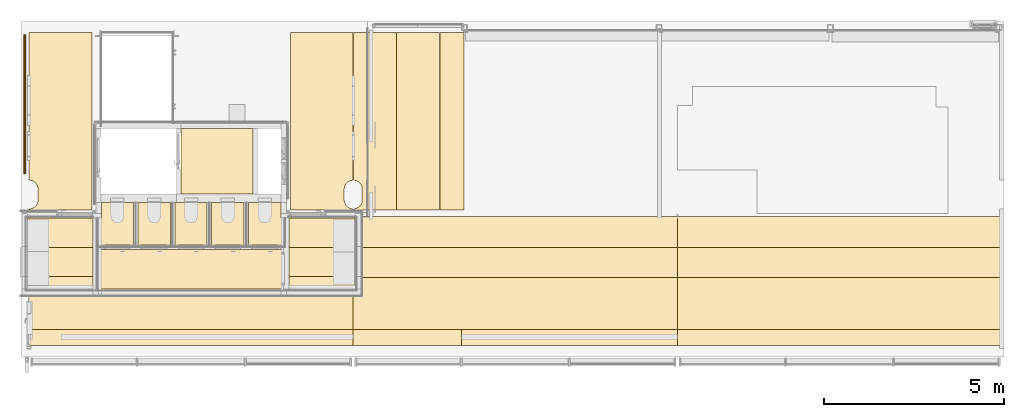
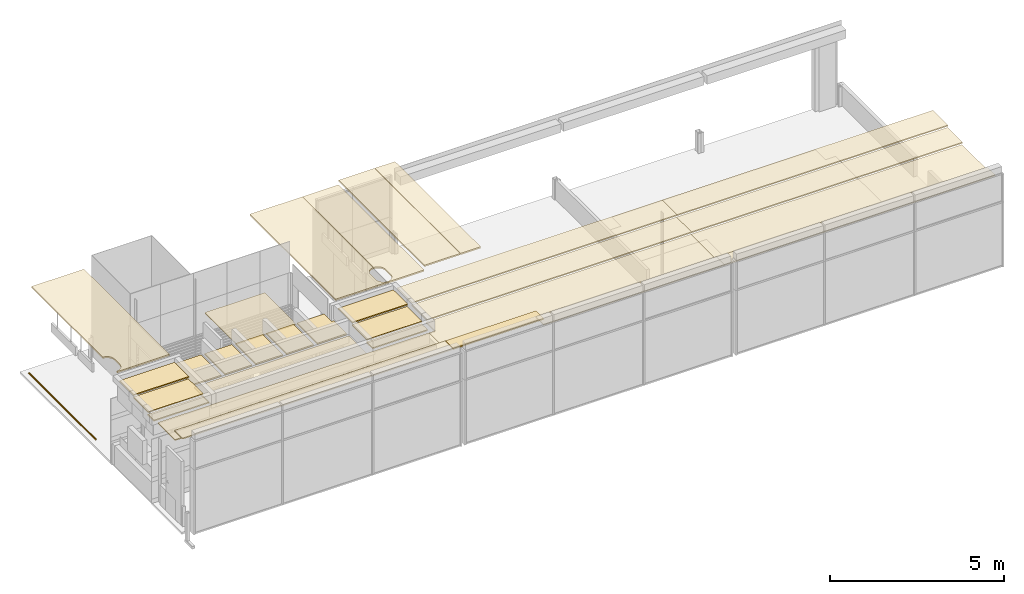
# One storey, part 22 of 26: 29 coverings, 1 railing.
"""IFC2X3 building model written with IfcOpenShell, lengths in millimetres."""

from ifc_helpers import new_model, entity, si_unit, converted_unit, derived_unit, direction, frame, frame_2d, origin_with_axes, origin_2d_with_axis, place, context, subcontext, project, spatial, polyline, circle_curve, parameter, trimmed, segment, composite_curve, rectangle, circle, outline, extrude, material, layer, layer_set, layer_usage, type_object, element, save


model = new_model("IFC2X3")

# Units and contexts
model_context = context("Model", 3, precision=0.01, world=frame((0.0, 4.29681676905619e-09, 0.0)), true_north=direction((4.01073788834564e-13, 1.0)))
plan_context = context("Plan", 3, precision=0.01, world=frame((0.0, 4.29681676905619e-09, 0.0)), true_north=direction((4.01073788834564e-13, 1.0)))
body_context = subcontext(model_context, "Body", "Model", "MODEL_VIEW")
ifc_project = project(units=[converted_unit("PLANEANGLEUNIT", "DEGREE", entity("IfcPositiveLengthMeasure", 0.0174532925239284), si_unit("PLANEANGLEUNIT", "RADIAN"), dimensions=[0, 0, 0, 0, 0, 0, 0]), si_unit("AREAUNIT", "SQUARE_METRE"), si_unit("LENGTHUNIT", "METRE", prefix="MILLI"), si_unit("MASSUNIT", "GRAM", prefix="KILO"), si_unit("POWERUNIT", "WATT"), si_unit("PRESSUREUNIT", "PASCAL", prefix="KILO"), si_unit("FORCEUNIT", "NEWTON", prefix="KILO"), si_unit("ELECTRICVOLTAGEUNIT", "VOLT"), si_unit("ELECTRICCURRENTUNIT", "AMPERE"), si_unit("THERMODYNAMICTEMPERATUREUNIT", "DEGREE_CELSIUS"), si_unit("TIMEUNIT", "SECOND"), si_unit("VOLUMEUNIT", "CUBIC_METRE"), derived_unit("LINEARVELOCITYUNIT", [(si_unit("LENGTHUNIT", "METRE"), 1), (si_unit("TIMEUNIT", "SECOND"), -1)]), derived_unit("VOLUMETRICFLOWRATEUNIT", [(si_unit("VOLUMEUNIT", "CUBIC_METRE"), 1), (si_unit("TIMEUNIT", "SECOND"), -1)]), derived_unit("THERMALTRANSMITTANCEUNIT", [(si_unit("POWERUNIT", "WATT"), 1), (si_unit("THERMODYNAMICTEMPERATUREUNIT", "KELVIN"), -1), (si_unit("AREAUNIT", "SQUARE_METRE"), -1)]), derived_unit("SOUNDPRESSUREUNIT", [(si_unit("PRESSUREUNIT", "PASCAL"), 1)])], contexts=[model_context, plan_context])

# Site, building, storey
site_placement = place(None, origin_with_axes())
site = spatial("IfcSite", under=ifc_project, at=site_placement, Name="ENGM", CompositionType="ELEMENT")
building_placement = place(site_placement, origin_with_axes())
building = spatial("IfcBuilding", under=site, at=building_placement, Name="TG", CompositionType="ELEMENT")
storey_placement = place(building_placement, frame((0.0, 0.0, 210200.0), z_axis=(0.0, 0.0, 1.0), x_axis=(1.0, 0.0, 0.0)))
storey = spatial("IfcBuildingStorey", under=building, at=storey_placement, Name="Nivå F - 0,7 m", CompositionType="ELEMENT", Elevation=210200.0)

# Coverings
ifc_material_1 = material(Name="_NSW Himlingsplate 600mm")
ifc_layer_1 = layer(ifc_material_1, 40.0)
ifc_layer_set_1 = layer_set([ifc_layer_1], Name="Compound Ceiling:A255 - eksisterende himling perfo. metall kassetter 600mm pir-nivåF")
ifc_layer_usage_1 = layer_usage(ifc_layer_set_1, "AXIS3", "NEGATIVE", 40.0)
covering_type_1 = type_object("IfcCoveringType", Name="Compound Ceiling:A255 - eksisterende himling perfo. metall kassetter 600mm pir-nivåF", PredefinedType="CEILING")
covering_1_placement = place(storey_placement, origin_with_axes())
element("IfcCovering", 1, at=covering_1_placement, inside=storey, type_object=covering_type_1, material=ifc_layer_usage_1, Name="Compound Ceiling:A255 - eksisterende himling perfo. metall kassetter 600mm pir-nivåF", ObjectType="Compound Ceiling:A255 - eksisterende himling perfo. metall kassetter 600mm pir-nivåF", PredefinedType="CEILING", context=body_context, shape_type="SweptSolid", body=[
    extrude(outline(polyline([(-5933.6666666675, -668.799999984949), (2867.33333333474, -668.799999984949), (2867.3333333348, -162.400000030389), (3066.33333333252, -162.400000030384), (3066.33333333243, 831.200000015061), (-5933.66666666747, 831.200000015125), (-5933.6666666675, -668.799999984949)])), frame((334066.333333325, 459761.200000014, 2700.0), z_axis=(0.0, 0.0, 1.0), x_axis=(-1.0, 0.0, 0.0)), (0.0, 0.0, 1.0), 39.9999999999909),
])
ifc_layer_usage_2 = layer_usage(ifc_layer_set_1, "AXIS3", "NEGATIVE", 40.0)
covering_2_placement = place(storey_placement, origin_with_axes())
element("IfcCovering", 2, at=covering_2_placement, inside=storey, type_object=covering_type_1, material=ifc_layer_usage_2, Name="Compound Ceiling:A255 - eksisterende himling perfo. metall kassetter 600mm pir-nivåF", ObjectType="Compound Ceiling:A255 - eksisterende himling perfo. metall kassetter 600mm pir-nivåF", PredefinedType="CEILING", context=body_context, shape_type="SweptSolid", body=[
    extrude(rectangle(XDim=8800.99999999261, YDim=860.000000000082, at=frame_2d((0.0, -3.46744855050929e-11), x_axis=(1.0, 0.0))), frame((335599.499999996, 460829.999999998, 2800.0), z_axis=(0.0, 0.0, 1.0), x_axis=(-1.0, 0.0, 0.0)), (0.0, 0.0, 1.0), 39.9999999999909),
])
ifc_layer_usage_3 = layer_usage(ifc_layer_set_1, "AXIS3", "NEGATIVE", 40.0)
covering_3_placement = place(storey_placement, origin_with_axes())
element("IfcCovering", 3, at=covering_3_placement, inside=storey, type_object=covering_type_1, material=ifc_layer_usage_3, Name="Compound Ceiling:A255 - eksisterende himling perfo. metall kassetter 600mm pir-nivåF", ObjectType="Compound Ceiling:A255 - eksisterende himling perfo. metall kassetter 600mm pir-nivåF", PredefinedType="CEILING", context=body_context, shape_type="SweptSolid", body=[
    extrude(rectangle(XDim=8800.99999999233, YDim=860.000000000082, at=frame_2d((0.0, -3.46744855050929e-11), x_axis=(1.0, 0.0))), frame((335599.499999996, 461659.999999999, 2900.0), z_axis=(0.0, 0.0, 1.0), x_axis=(-1.0, 0.0, 0.0)), (0.0, 0.0, 1.0), 39.9999999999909),
])
ifc_layer_usage_4 = layer_usage(ifc_layer_set_1, "AXIS3", "NEGATIVE", 40.0)
covering_4_placement = place(storey_placement, origin_with_axes())
element("IfcCovering", 4, at=covering_4_placement, inside=storey, type_object=covering_type_1, material=ifc_layer_usage_4, Name="Compound Ceiling:A255 - eksisterende himling perfo. metall kassetter 600mm pir-nivåF", ObjectType="Compound Ceiling:A255 - eksisterende himling perfo. metall kassetter 600mm pir-nivåF", PredefinedType="CEILING", context=body_context, shape_type="SweptSolid", body=[
    extrude(rectangle(XDim=2999.99999998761, YDim=450.000000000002, at=origin_2d_with_axis()), frame((332499.999999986, 458734.999999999, 3005.0), z_axis=(0.0, 0.0, 1.0), x_axis=(-1.0, 0.0, 0.0)), (0.0, 0.0, 1.0), 39.9999999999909),
])
ifc_layer_usage_5 = layer_usage(ifc_layer_set_1, "AXIS3", "NEGATIVE", 40.0)
covering_5_placement = place(storey_placement, origin_with_axes())
element("IfcCovering", 5, at=covering_5_placement, inside=storey, type_object=covering_type_1, material=ifc_layer_usage_5, Name="Compound Ceiling:A255 - eksisterende himling perfo. metall kassetter 600mm pir-nivåF", ObjectType="Compound Ceiling:A255 - eksisterende himling perfo. metall kassetter 600mm pir-nivåF", PredefinedType="CEILING", context=body_context, shape_type="SweptSolid", body=[
    extrude(rectangle(XDim=1826.49999999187, YDim=355.00000008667, at=origin_2d_with_axis()), frame((322868.250000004, 460252.499999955, 2700.0), z_axis=(0.0, 0.0, 1.0), x_axis=(-1.0, 0.0, 0.0)), (0.0, 0.0, 1.0), 39.9999999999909),
])
ifc_layer_usage_6 = layer_usage(ifc_layer_set_1, "AXIS3", "NEGATIVE", 40.0)
covering_6_placement = place(storey_placement, origin_with_axes())
element("IfcCovering", 6, at=covering_6_placement, inside=storey, type_object=covering_type_1, material=ifc_layer_usage_6, Name="Compound Ceiling:A255 - eksisterende himling perfo. metall kassetter 600mm pir-nivåF", ObjectType="Compound Ceiling:A255 - eksisterende himling perfo. metall kassetter 600mm pir-nivåF", PredefinedType="CEILING", context=body_context, shape_type="SweptSolid", body=[
    extrude(rectangle(XDim=1826.49999999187, YDim=860.000000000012, at=frame_2d((-3.46176420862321e-11, -3.46744855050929e-11), x_axis=(1.0, 0.0))), frame((322868.250000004, 460829.999999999, 2800.0), z_axis=(0.0, 0.0, 1.0), x_axis=(-1.0, 0.0, 0.0)), (0.0, 0.0, 1.0), 39.9999999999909),
])
ifc_layer_usage_7 = layer_usage(ifc_layer_set_1, "AXIS3", "NEGATIVE", 40.0)
covering_7_placement = place(storey_placement, origin_with_axes())
element("IfcCovering", 7, at=covering_7_placement, inside=storey, type_object=covering_type_1, material=ifc_layer_usage_7, Name="Compound Ceiling:A255 - eksisterende himling perfo. metall kassetter 600mm pir-nivåF", ObjectType="Compound Ceiling:A255 - eksisterende himling perfo. metall kassetter 600mm pir-nivåF", PredefinedType="CEILING", context=body_context, shape_type="SweptSolid", body=[
    extrude(rectangle(XDim=1826.49999999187, YDim=819.999999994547, at=frame_2d((-3.46744855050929e-11, 0.0), x_axis=(1.0, 0.0))), frame((322868.250000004, 461639.999999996, 2900.0), z_axis=(0.0, 0.0, 1.0), x_axis=(-1.0, 0.0, 0.0)), (0.0, 0.0, 1.0), 39.9999999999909),
])
ifc_layer_usage_8 = layer_usage(ifc_layer_set_1, "AXIS3", "NEGATIVE", 40.0)
covering_8_placement = place(storey_placement, origin_with_axes())
element("IfcCovering", 8, at=covering_8_placement, inside=storey, type_object=covering_type_1, material=ifc_layer_usage_8, Name="Compound Ceiling:A255 - eksisterende himling perfo. metall kassetter 600mm pir-nivåF", ObjectType="Compound Ceiling:A255 - eksisterende himling perfo. metall kassetter 600mm pir-nivåF", PredefinedType="CEILING", context=body_context, shape_type="SweptSolid", body=[
    extrude(rectangle(XDim=8999.99999999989, YDim=450.000000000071, at=frame_2d((0.0, -6.9292127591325e-11), x_axis=(1.0, 0.0))), frame((326499.999999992, 458734.999999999, 3005.0), z_axis=(0.0, 0.0, 1.0), x_axis=(-1.0, 0.0, 0.0)), (0.0, 0.0, 1.0), 39.9999999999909),
])
ifc_layer_usage_9 = layer_usage(ifc_layer_set_1, "AXIS3", "NEGATIVE", 40.0)
covering_9_placement = place(storey_placement, origin_with_axes())
element("IfcCovering", 9, at=covering_9_placement, inside=storey, type_object=covering_type_1, material=ifc_layer_usage_9, Name="Compound Ceiling:A255 - eksisterende himling perfo. metall kassetter 600mm pir-nivåF", ObjectType="Compound Ceiling:A255 - eksisterende himling perfo. metall kassetter 600mm pir-nivåF", PredefinedType="CEILING", context=body_context, shape_type="SweptSolid", body=[
    extrude(rectangle(XDim=1830.49999998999, YDim=355.000000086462, at=origin_2d_with_axis()), frame((330133.749999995, 460252.499999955, 2700.0), z_axis=(0.0, 0.0, 1.0), x_axis=(-1.0, 0.0, 0.0)), (0.0, 0.0, 1.0), 39.9999999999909),
])
ifc_layer_usage_10 = layer_usage(ifc_layer_set_1, "AXIS3", "NEGATIVE", 40.0)
covering_10_placement = place(storey_placement, origin_with_axes())
element("IfcCovering", 10, at=covering_10_placement, inside=storey, type_object=covering_type_1, material=ifc_layer_usage_10, Name="Compound Ceiling:A255 - eksisterende himling perfo. metall kassetter 600mm pir-nivåF", ObjectType="Compound Ceiling:A255 - eksisterende himling perfo. metall kassetter 600mm pir-nivåF", PredefinedType="CEILING", context=body_context, shape_type="SweptSolid", body=[
    extrude(rectangle(XDim=1830.49999999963, YDim=860.000000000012, at=origin_2d_with_axis()), frame((330133.75, 460829.999999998, 2800.0), z_axis=(0.0, 0.0, 1.0), x_axis=(-1.0, 0.0, 0.0)), (0.0, 0.0, 1.0), 39.9999999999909),
])
ifc_layer_usage_11 = layer_usage(ifc_layer_set_1, "AXIS3", "NEGATIVE", 40.0)
covering_11_placement = place(storey_placement, origin_with_axes())
element("IfcCovering", 11, at=covering_11_placement, inside=storey, type_object=covering_type_1, material=ifc_layer_usage_11, Name="Compound Ceiling:A255 - eksisterende himling perfo. metall kassetter 600mm pir-nivåF", ObjectType="Compound Ceiling:A255 - eksisterende himling perfo. metall kassetter 600mm pir-nivåF", PredefinedType="CEILING", context=body_context, shape_type="SweptSolid", body=[
    extrude(rectangle(XDim=1830.4999999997, YDim=819.600000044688, at=frame_2d((3.46744855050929e-11, -3.46460637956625e-11), x_axis=(1.0, 0.0))), frame((330133.75, 461639.800000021, 2900.0), z_axis=(0.0, 0.0, 1.0), x_axis=(-1.0, 0.0, 0.0)), (0.0, 0.0, 1.0), 39.9999999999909),
])
ifc_layer_usage_12 = layer_usage(ifc_layer_set_1, "AXIS3", "NEGATIVE", 40.0)
covering_12_placement = place(storey_placement, origin_with_axes())
element("IfcCovering", 12, at=covering_12_placement, inside=storey, type_object=covering_type_1, material=ifc_layer_usage_12, Name="Compound Ceiling:A255 - eksisterende himling perfo. metall kassetter 600mm pir-nivåF", ObjectType="Compound Ceiling:A255 - eksisterende himling perfo. metall kassetter 600mm pir-nivåF", PredefinedType="CEILING", context=body_context, shape_type="SweptSolid", body=[
    extrude(rectangle(XDim=9000.00000000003, YDim=993.600000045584, at=origin_2d_with_axis()), frame((326499.999999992, 459426.800000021, 2700.0), z_axis=(0.0, 0.0, 1.0), x_axis=(-1.0, 0.0, 0.0)), (0.0, 0.0, 1.0), 39.9999999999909),
])
ifc_layer_usage_13 = layer_usage(ifc_layer_set_1, "AXIS3", "NEGATIVE", 40.0)
covering_13_placement = place(storey_placement, origin_with_axes())
element("IfcCovering", 13, at=covering_13_placement, inside=storey, type_object=covering_type_1, material=ifc_layer_usage_13, Name="Compound Ceiling:A255 - eksisterende himling perfo. metall kassetter 600mm pir-nivåF", ObjectType="Compound Ceiling:A255 - eksisterende himling perfo. metall kassetter 600mm pir-nivåF", PredefinedType="CEILING", context=body_context, shape_type="SweptSolid", body=[
    extrude(rectangle(XDim=8999.99999999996, YDim=1500.00000000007, at=frame_2d((3.45607986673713e-11, -1.03966613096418e-10), x_axis=(1.0, 0.0))), frame((344499.999999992, 459679.999999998, 2700.0), z_axis=(0.0, 0.0, 1.0), x_axis=(-1.0, 0.0, 0.0)), (0.0, 0.0, 1.0), 39.9999999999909),
])
ifc_layer_usage_14 = layer_usage(ifc_layer_set_1, "AXIS3", "NEGATIVE", 40.0)
covering_14_placement = place(storey_placement, origin_with_axes())
element("IfcCovering", 14, at=covering_14_placement, inside=storey, type_object=covering_type_1, material=ifc_layer_usage_14, Name="Compound Ceiling:A255 - eksisterende himling perfo. metall kassetter 600mm pir-nivåF", ObjectType="Compound Ceiling:A255 - eksisterende himling perfo. metall kassetter 600mm pir-nivåF", PredefinedType="CEILING", context=body_context, shape_type="SweptSolid", body=[
    extrude(rectangle(XDim=8999.99999999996, YDim=860.000000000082, at=frame_2d((3.45607986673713e-11, -3.46744855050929e-11), x_axis=(1.0, 0.0))), frame((344499.999999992, 460829.999999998, 2800.0), z_axis=(0.0, 0.0, 1.0), x_axis=(-1.0, 0.0, 0.0)), (0.0, 0.0, 1.0), 39.9999999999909),
])
ifc_layer_usage_15 = layer_usage(ifc_layer_set_1, "AXIS3", "NEGATIVE", 40.0)
covering_15_placement = place(storey_placement, origin_with_axes())
element("IfcCovering", 15, at=covering_15_placement, inside=storey, type_object=covering_type_1, material=ifc_layer_usage_15, Name="Compound Ceiling:A255 - eksisterende himling perfo. metall kassetter 600mm pir-nivåF", ObjectType="Compound Ceiling:A255 - eksisterende himling perfo. metall kassetter 600mm pir-nivåF", PredefinedType="CEILING", context=body_context, shape_type="SweptSolid", body=[
    extrude(rectangle(XDim=8999.99999999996, YDim=860.000000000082, at=frame_2d((3.45607986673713e-11, -3.46744855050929e-11), x_axis=(1.0, 0.0))), frame((344499.999999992, 461659.999999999, 2900.0), z_axis=(0.0, 0.0, 1.0), x_axis=(-1.0, 0.0, 0.0)), (0.0, 0.0, 1.0), 39.9999999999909),
])
ifc_layer_usage_16 = layer_usage(ifc_layer_set_1, "AXIS3", "NEGATIVE", 40.0)
covering_16_placement = place(storey_placement, origin_with_axes())
element("IfcCovering", 16, at=covering_16_placement, inside=storey, type_object=covering_type_1, material=ifc_layer_usage_16, Name="Compound Ceiling:A255 - eksisterende himling perfo. metall kassetter 600mm pir-nivåF", ObjectType="Compound Ceiling:A255 - eksisterende himling perfo. metall kassetter 600mm pir-nivåF", PredefinedType="CEILING", context=body_context, shape_type="SweptSolid", body=[
    extrude(rectangle(XDim=8999.99999999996, YDim=450.000000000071, at=frame_2d((-6.91215973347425e-11, -6.9292127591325e-11), x_axis=(1.0, 0.0))), frame((344499.999999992, 458734.999999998, 2800.0), z_axis=(0.0, 0.0, 1.0), x_axis=(-1.0, 0.0, 0.0)), (0.0, 0.0, 1.0), 39.9999999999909),
])
ifc_layer_usage_17 = layer_usage(ifc_layer_set_1, "AXIS3", "NEGATIVE", 40.0)
covering_17_placement = place(storey_placement, origin_with_axes())
element("IfcCovering", 17, at=covering_17_placement, inside=storey, type_object=covering_type_1, material=ifc_layer_usage_17, Name="Compound Ceiling:A255 - eksisterende himling perfo. metall kassetter 600mm pir-nivåF", ObjectType="Compound Ceiling:A255 - eksisterende himling perfo. metall kassetter 600mm pir-nivåF", PredefinedType="CEILING", context=body_context, shape_type="SweptSolid", body=[
    extrude(rectangle(XDim=5999.99999999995, YDim=450.000000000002, at=frame_2d((-3.45607986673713e-11, 3.46460637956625e-11), x_axis=(1.0, 0.0))), frame((336999.999999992, 458734.999999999, 2800.0), z_axis=(0.0, 0.0, 1.0), x_axis=(-1.0, 0.0, 0.0)), (0.0, 0.0, 1.0), 39.9999999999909),
])
ifc_material_2 = material(Name="T2_Gips Standard")
ifc_layer_2 = layer(ifc_material_2, 36.0)
ifc_material_3 = material(Name="_NSW Himlingsplate 600x1200 mm")
ifc_layer_3 = layer(ifc_material_3, 16.0)
ifc_layer_set_2 = layer_set([ifc_layer_2, ifc_layer_3], Name="Compound Ceiling:A255 - eksisterende - perforert gips systemhimling - 1200 x 600 mm")
ifc_layer_usage_18 = layer_usage(ifc_layer_set_2, "AXIS3", "NEGATIVE", 52.0)
covering_type_2 = type_object("IfcCoveringType", Name="Compound Ceiling:A255 - eksisterende - perforert gips systemhimling - 1200 x 600 mm", PredefinedType="CEILING")
covering_18_placement = place(storey_placement, origin_with_axes())
element("IfcCovering", 18, at=covering_18_placement, inside=storey, type_object=covering_type_2, material=ifc_layer_usage_18, Name="Compound Ceiling:A255 - eksisterende - perforert gips systemhimling - 1200 x 600 mm", ObjectType="Compound Ceiling:A255 - eksisterende - perforert gips systemhimling - 1200 x 600 mm", PredefinedType="CEILING", context=body_context, shape_type="SweptSolid", body=[
    extrude(outline(composite_curve([segment(polyline([(-1450.05948466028, 496.246240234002), (-1450.05948466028, -1243.74624023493)]), True, "CONTINUOUS"), segment(polyline([(-1450.05948466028, -1243.74624023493), (3480.16970401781, -1243.74624023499)]), True, "CONTINUOUS"), segment(polyline([(3480.16970401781, -1243.74624023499), (3480.16970401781, 496.246240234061)]), True, "CONTINUOUS"), segment(polyline([(3480.16970401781, 496.246240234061), (-615.1052652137, 496.246240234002)]), True, "CONTINUOUS"), segment(trimmed(circle_curve(frame_2d((-865.055109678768, 501.253759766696), x_axis=(1.0, 0.0)), 250.0), [parameter(270.000000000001)], [parameter(358.852284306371)], True, "PARAMETER"), False, "CONTINUOUS"), segment(polyline([(-865.055109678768, 251.253759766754), (-1165.05510967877, 251.253759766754)]), True, "CONTINUOUS"), segment(trimmed(circle_curve(frame_2d((-1165.05510967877, 501.253759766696), x_axis=(1.0, 0.0)), 250.0), [parameter(181.147715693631)], [parameter(270.000000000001)], True, "PARAMETER"), False, "CONTINUOUS"), segment(polyline([(-1415.00495414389, 496.246240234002), (-1450.05948466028, 496.246240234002)]), True, "CONTINUOUS")], self_intersect=False)), frame((330498.746240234, 463715.055109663, 3055.0), z_axis=(0.0, 0.0, -1.0), x_axis=(0.0, 1.0, 0.0)), (0.0, 0.0, -1.0), 51.9999999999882),
])
ifc_layer_usage_19 = layer_usage(ifc_layer_set_2, "AXIS3", "NEGATIVE", 52.0)
covering_19_placement = place(storey_placement, origin_with_axes())
element("IfcCovering", 19, at=covering_19_placement, inside=storey, type_object=covering_type_2, material=ifc_layer_usage_19, Name="Compound Ceiling:A255 - eksisterende - perforert gips systemhimling - 1200 x 600 mm", ObjectType="Compound Ceiling:A255 - eksisterende - perforert gips systemhimling - 1200 x 600 mm", PredefinedType="CEILING", context=body_context, shape_type="SweptSolid", body=[
    extrude(outline(composite_curve([segment(polyline([(-1450.05948465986, -831.253759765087), (3480.16970401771, -831.253759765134)]), True, "CONTINUOUS"), segment(polyline([(3480.16970401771, -831.253759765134), (3480.16970401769, 358.753759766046)]), True, "CONTINUOUS"), segment(polyline([(3480.16970401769, 358.753759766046), (-615.104964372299, 358.753759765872)]), True, "CONTINUOUS"), segment(trimmed(circle_curve(frame_2d((-865.055109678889, 363.746240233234), x_axis=(1.0, 0.0)), 250.0), [parameter(269.999999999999)], [parameter(358.855731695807)], True, "PARAMETER"), False, "CONTINUOUS"), segment(polyline([(-865.055109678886, 113.746240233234), (-1165.05510967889, 113.746240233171)]), True, "CONTINUOUS"), segment(trimmed(circle_curve(frame_2d((-1165.05510967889, 363.746240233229), x_axis=(1.0, 0.0)), 250.0), [parameter(181.144268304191)], [parameter(269.999999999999)], True, "PARAMETER"), False, "CONTINUOUS"), segment(polyline([(-1415.00525498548, 358.753759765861), (-1450.05948465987, 358.753759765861)]), True, "CONTINUOUS"), segment(polyline([(-1450.05948465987, 358.753759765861), (-1450.05948465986, -831.253759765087)]), True, "CONTINUOUS")], self_intersect=False)), frame((331363.746240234, 463715.055109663, 3055.0), z_axis=(0.0, 0.0, 1.0), x_axis=(0.0, 1.0, 0.0)), (0.0, 0.0, 1.0), 51.9999999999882),
])
ifc_layer_usage_20 = layer_usage(ifc_layer_set_2, "AXIS3", "NEGATIVE", 52.0)
covering_20_placement = place(storey_placement, origin_with_axes())
element("IfcCovering", 20, at=covering_20_placement, inside=storey, type_object=covering_type_2, material=ifc_layer_usage_20, Name="Compound Ceiling:A255 - eksisterende - perforert gips systemhimling - 1200 x 600 mm", ObjectType="Compound Ceiling:A255 - eksisterende - perforert gips systemhimling - 1200 x 600 mm", PredefinedType="CEILING", context=body_context, shape_type="SweptSolid", body=[
    extrude(rectangle(XDim=4930.22918867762, YDim=669.895800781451, at=frame_2d((-3.47881723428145e-11, 3.46460637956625e-11), x_axis=(1.0, 0.0))), frame((333739.940380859, 464730.110219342, 3215.0), z_axis=(0.0, 0.0, 1.0), x_axis=(0.0, 1.0, 0.0)), (0.0, 0.0, 1.0), 51.9999999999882),
])
ifc_layer_usage_21 = layer_usage(ifc_layer_set_2, "AXIS3", "NEGATIVE", 52.0)
covering_21_placement = place(storey_placement, origin_with_axes())
element("IfcCovering", 21, at=covering_21_placement, inside=storey, type_object=covering_type_2, material=ifc_layer_usage_21, Name="Compound Ceiling:A255 - eksisterende - perforert gips systemhimling - 1200 x 600 mm", ObjectType="Compound Ceiling:A255 - eksisterende - perforert gips systemhimling - 1200 x 600 mm", PredefinedType="CEILING", context=body_context, shape_type="SweptSolid", body=[
    extrude(rectangle(XDim=4930.22918867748, YDim=1189.9924804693, at=frame_2d((-3.45607986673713e-11, 3.46744855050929e-11), x_axis=(1.0, 0.0))), frame((332799.996240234, 464730.110219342, 3215.0), z_axis=(0.0, 0.0, 1.0), x_axis=(0.0, 1.0, 0.0)), (0.0, 0.0, 1.0), 51.9999999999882),
])
ifc_layer_usage_22 = layer_usage(ifc_layer_set_2, "AXIS3", "NEGATIVE", 52.0)
covering_22_placement = place(storey_placement, origin_with_axes())
element("IfcCovering", 22, at=covering_22_placement, inside=storey, type_object=covering_type_2, material=ifc_layer_usage_22, Name="Compound Ceiling:A255 - eksisterende - perforert gips systemhimling - 1200 x 600 mm", ObjectType="Compound Ceiling:A255 - eksisterende - perforert gips systemhimling - 1200 x 600 mm", PredefinedType="CEILING", context=body_context, shape_type="SweptSolid", body=[
    extrude(outline(composite_curve([segment(polyline([(-1450.05948466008, -1243.75939938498), (3480.16970401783, -1243.75939938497)]), True, "CONTINUOUS"), segment(polyline([(3480.16970401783, -1243.75939938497), (3480.1697040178, 496.255639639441)]), True, "CONTINUOUS"), segment(polyline([(3480.1697040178, 496.255639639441), (-615.104964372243, 496.255639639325)]), True, "CONTINUOUS"), segment(trimmed(circle_curve(frame_2d((-865.055109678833, 501.248120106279), x_axis=(1.0, 0.0)), 250.0), [parameter(269.999999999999)], [parameter(358.855731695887)], True, "PARAMETER"), False, "CONTINUOUS"), segment(polyline([(-865.055109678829, 251.248120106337), (-1165.05510967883, 251.248120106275)]), True, "CONTINUOUS"), segment(trimmed(circle_curve(frame_2d((-1165.05510967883, 501.248120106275), x_axis=(1.0, 0.0)), 250.0), [parameter(181.144268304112)], [parameter(269.999999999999)], True, "PARAMETER"), False, "CONTINUOUS"), segment(polyline([(-1415.00525498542, 496.255639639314), (-1450.05948466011, 496.255639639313)]), True, "CONTINUOUS"), segment(polyline([(-1450.05948466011, 496.255639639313), (-1450.05948466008, -1243.75939938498)]), True, "CONTINUOUS")], self_intersect=False)), frame((322501.248120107, 463715.055109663, 3055.0), z_axis=(0.0, 0.0, 1.0), x_axis=(0.0, 1.0, 0.0)), (0.0, 0.0, 1.0), 51.9999999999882),
])
ifc_material_4 = material(Name="T2_Gips Protect F")
ifc_layer_4 = layer(ifc_material_4, 15.0)
ifc_layer_5 = layer(ifc_material_4, 15.0)
ifc_layer_set_3 = layer_set([ifc_layer_4, ifc_layer_5], Name="Compound Ceiling:A255 - Eksisterende - A60 Gips - 30 mm")
ifc_layer_usage_23 = layer_usage(ifc_layer_set_3, "AXIS3", "NEGATIVE", 30.0)
covering_type_3 = type_object("IfcCoveringType", Name="Compound Ceiling:A255 - Eksisterende - A60 Gips - 30 mm", PredefinedType="CEILING")
covering_23_placement = place(storey_placement, origin_with_axes())
element("IfcCovering", 23, at=covering_23_placement, inside=storey, type_object=covering_type_3, material=ifc_layer_usage_23, Name="Compound Ceiling:A255 - Eksisterende - A60 Gips - 30 mm", ObjectType="Compound Ceiling:A255 - Eksisterende - A60 Gips - 30 mm", PredefinedType="CEILING", context=body_context, shape_type="SweptSolid", body=[
    extrude(rectangle(XDim=1995.50000000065, YDim=1809.99999999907, at=frame_2d((0.0, -2.42550868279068e-10), x_axis=(1.0, 0.0))), frame((327217.75, 463626.250000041, 2300.0), z_axis=(0.0, 0.0, 1.0), x_axis=(-1.0, 0.0, 0.0)), (0.0, 0.0, 1.0), 29.9999999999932),
])
ifc_material_5 = material(Name="<Unnamed>")
ifc_layer_6 = layer(ifc_material_5, 36.0)
ifc_material_6 = material(Name="_NSW Himlingsplate 600x600 mm_med mønster")
ifc_layer_7 = layer(ifc_material_6, 16.0)
ifc_layer_set_4 = layer_set([ifc_layer_6, ifc_layer_7], Name="Compound Ceiling:A255 - Eksisterende - perforerte metallkassetter - 600 x 600 mm")
ifc_layer_usage_24 = layer_usage(ifc_layer_set_4, "AXIS3", "NEGATIVE", 52.0)
covering_type_4 = type_object("IfcCoveringType", Name="Compound Ceiling:A255 - Eksisterende - perforerte metallkassetter - 600 x 600 mm", PredefinedType="CEILING")
covering_24_placement = place(storey_placement, origin_with_axes())
element("IfcCovering", 24, at=covering_24_placement, inside=storey, type_object=covering_type_4, material=ifc_layer_usage_24, Name="Compound Ceiling:A255 - Eksisterende - perforerte metallkassetter - 600 x 600 mm", ObjectType="Compound Ceiling:A255 - Eksisterende - perforerte metallkassetter - 600 x 600 mm", PredefinedType="CEILING", context=body_context, shape_type="SweptSolid", body=[
    extrude(rectangle(XDim=898.000000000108, YDim=1177.28750000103, at=frame_2d((0.0, -1.03966613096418e-10), x_axis=(1.0, 0.0))), frame((327521.499999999, 461890.106250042, 2500.0), z_axis=(0.0, 0.0, 1.0), x_axis=(-1.0, 0.0, 0.0)), (0.0, 0.0, 1.0), 51.9999999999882),
])
ifc_layer_usage_25 = layer_usage(ifc_layer_set_4, "AXIS3", "NEGATIVE", 52.0)
covering_25_placement = place(storey_placement, origin_with_axes())
element("IfcCovering", 25, at=covering_25_placement, inside=storey, type_object=covering_type_4, material=ifc_layer_usage_25, Name="Compound Ceiling:A255 - Eksisterende - perforerte metallkassetter - 600 x 600 mm", ObjectType="Compound Ceiling:A255 - Eksisterende - perforerte metallkassetter - 600 x 600 mm", PredefinedType="CEILING", context=body_context, shape_type="SweptSolid", body=[
    extrude(outline(polyline([(-274.333333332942, -535.812500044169), (623.666666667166, -535.812500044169), (623.666666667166, 641.47499995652), (-349.333333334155, 641.474999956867), (-349.333333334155, -105.662499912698), (-274.333333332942, -105.662499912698), (-274.333333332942, -535.812500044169)])), frame((328719.166666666, 461942.937499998, 2500.0), z_axis=(0.0, 0.0, 1.0), x_axis=(-1.0, 0.0, 0.0)), (0.0, 0.0, 1.0), 51.9999999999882),
])
ifc_layer_usage_26 = layer_usage(ifc_layer_set_4, "AXIS3", "NEGATIVE", 52.0)
covering_26_placement = place(storey_placement, origin_with_axes())
element("IfcCovering", 26, at=covering_26_placement, inside=storey, type_object=covering_type_4, material=ifc_layer_usage_26, Name="Compound Ceiling:A255 - Eksisterende - perforerte metallkassetter - 600 x 600 mm", ObjectType="Compound Ceiling:A255 - Eksisterende - perforerte metallkassetter - 600 x 600 mm", PredefinedType="CEILING", context=body_context, shape_type="SweptSolid", body=[
    extrude(rectangle(XDim=898.000000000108, YDim=1177.28750000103, at=frame_2d((0.0, -1.03966613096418e-10), x_axis=(1.0, 0.0))), frame((326498.499999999, 461890.106250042, 2500.0), z_axis=(0.0, 0.0, 1.0), x_axis=(-1.0, 0.0, 0.0)), (0.0, 0.0, 1.0), 51.9999999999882),
])
ifc_layer_usage_27 = layer_usage(ifc_layer_set_4, "AXIS3", "NEGATIVE", 52.0)
covering_27_placement = place(storey_placement, origin_with_axes())
element("IfcCovering", 27, at=covering_27_placement, inside=storey, type_object=covering_type_4, material=ifc_layer_usage_27, Name="Compound Ceiling:A255 - Eksisterende - perforerte metallkassetter - 600 x 600 mm", ObjectType="Compound Ceiling:A255 - Eksisterende - perforerte metallkassetter - 600 x 600 mm", PredefinedType="CEILING", context=body_context, shape_type="SweptSolid", body=[
    extrude(rectangle(XDim=898.000000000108, YDim=1177.28750000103, at=frame_2d((0.0, -1.03966613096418e-10), x_axis=(1.0, 0.0))), frame((325476.499999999, 461890.106250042, 2500.0), z_axis=(0.0, 0.0, 1.0), x_axis=(-1.0, 0.0, 0.0)), (0.0, 0.0, 1.0), 51.9999999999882),
])
ifc_layer_usage_28 = layer_usage(ifc_layer_set_4, "AXIS3", "NEGATIVE", 52.0)
covering_28_placement = place(storey_placement, origin_with_axes())
element("IfcCovering", 28, at=covering_28_placement, inside=storey, type_object=covering_type_4, material=ifc_layer_usage_28, Name="Compound Ceiling:A255 - Eksisterende - perforerte metallkassetter - 600 x 600 mm", ObjectType="Compound Ceiling:A255 - Eksisterende - perforerte metallkassetter - 600 x 600 mm", PredefinedType="CEILING", context=body_context, shape_type="SweptSolid", body=[
    extrude(outline(polyline([(-623.333333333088, -535.812499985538), (274.66666666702, -535.812499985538), (274.66666666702, -105.662500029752), (348.666666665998, -105.662500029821), (348.666666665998, 641.475000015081), (-623.333333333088, 641.475000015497), (-623.333333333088, -535.812499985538)])), frame((324280.166666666, 461942.937500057, 2500.0), z_axis=(0.0, 0.0, 1.0), x_axis=(-1.0, 0.0, 0.0)), (0.0, 0.0, 1.0), 51.9999999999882),
])
ifc_layer_usage_29 = layer_usage(ifc_layer_set_4, "AXIS3", "NEGATIVE", 52.0)
covering_29_placement = place(storey_placement, origin_with_axes())
element("IfcCovering", 29, at=covering_29_placement, inside=storey, type_object=covering_type_4, material=ifc_layer_usage_29, Name="Compound Ceiling:A255 - Eksisterende - perforerte metallkassetter - 600 x 600 mm", ObjectType="Compound Ceiling:A255 - Eksisterende - perforerte metallkassetter - 600 x 600 mm", PredefinedType="CEILING", context=body_context, shape_type="SweptSolid", body=[
    extrude(rectangle(XDim=5137.00000000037, YDim=1102.86249999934, at=frame_2d((0.0, -4.85158579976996e-10), x_axis=(1.0, 0.0))), frame((326500.0, 460625.031250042, 2500.0), z_axis=(0.0, 0.0, 1.0), x_axis=(-1.0, 0.0, 0.0)), (0.0, 0.0, 1.0), 51.9999999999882),
])

# Railing
railing_type = type_object("IfcRailingType", Name="Railing:A247 Fendring - FE-S01 - Avviser, montert m. brakett mot dekke, 1 rør Ø=49 mm", PredefinedType="NOTDEFINED")
railing_placement = place(storey_placement, origin_with_axes())
element("IfcRailing", 30, at=railing_placement, inside=storey, type_object=railing_type, material=ifc_material_5, Name="Railing:A247 Fendring - FE-S01 - Avviser, montert m. brakett mot dekke, 1 rør Ø=49 mm", ObjectType="Railing:A247 Fendring - FE-S01 - Avviser, montert m. brakett mot dekke, 1 rør Ø=49 mm", PredefinedType="NOTDEFINED", context=body_context, shape_type="SweptSolid", body=[
    extrude(circle(Radius=25.0, at=origin_2d_with_axis()), frame((321879.000000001, 463275.112406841, 147.0), z_axis=(0.0, 1.0, 0.0), x_axis=(-1.0, 0.0, 0.0)), (0.0, 0.0, 1.0), 3860.00000000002),
])

save(model, "model.ifc")
